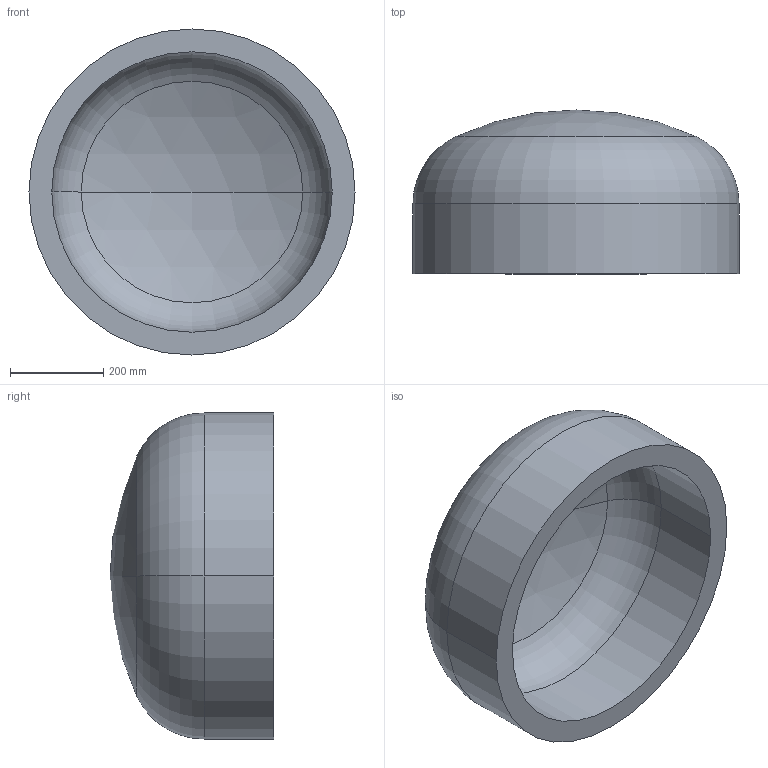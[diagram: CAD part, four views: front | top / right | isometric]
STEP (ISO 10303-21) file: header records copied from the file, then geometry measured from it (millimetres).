
FILE_DESCRIPTION (( 'STEP AP203' ), '1' );
FILE_NAME ('DIN 28013 Korbbogenform_-_Boden DIN 28013 - 700 x 150 - I - s=49.step', '2016-07-01T08:08:43', ( '' ), ( '' ), 'SwSTEP 2.0', 'SolidWorks 2013', '' );
FILE_SCHEMA (( 'CONFIG_CONTROL_DESIGN' ));
Length unit declared in the file: millimetre
Products named in the file (1): DIN 28013 Korbbogenform_-_Boden DIN 28013 - 700 x 150 - I - s=49
Bounding box: 700 x 351.55 x 700 mm (x, y, z)
Volume: 39037978.6 mm3; surface area: 1698629 mm2
Topology: 1 solids, 1 shells, 13 faces, 24 edges, 14 vertices
Faces by surface type: torus 4, cylinder 4, sphere 4, plane 1
Entity records: 407 total; most frequent: DIRECTION 72, CARTESIAN_POINT 52, ORIENTED_EDGE 48, AXIS2_PLACEMENT_3D 34, EDGE_CURVE 24, CIRCLE 20, EDGE_LOOP 14, VERTEX_POINT 14
